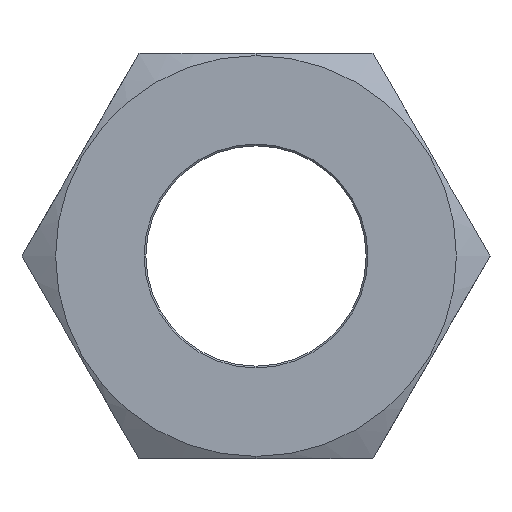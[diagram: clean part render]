
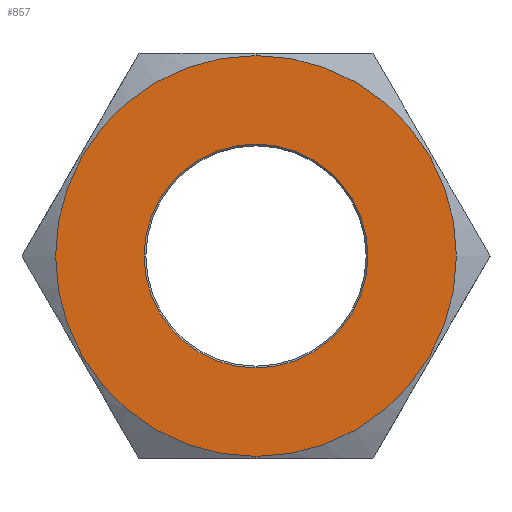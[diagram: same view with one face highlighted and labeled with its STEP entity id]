
A CAD part, left-side view. The second image highlights one B-rep face of the part: STEP entity #857.
In plain terms, the highlighted planar face has unit normal (-1, 0, 0) as drawn and (0, 0, 1) by its records, which use the part's own axes.
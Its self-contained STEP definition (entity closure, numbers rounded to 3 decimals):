
#141=CARTESIAN_POINT('',(22.75,0.0,13.75));
#142=VERTEX_POINT('',#141);
#151=CARTESIAN_POINT('',(-22.75,0.,13.75));
#152=VERTEX_POINT('',#151);
#153=CARTESIAN_POINT('',(0.,0.0,13.75));
#154=DIRECTION('',(0.0,0.0,1.0));
#155=DIRECTION('',(1.0,0.0,0.0));
#156=AXIS2_PLACEMENT_3D('',#153,#154,#155);
#157=CIRCLE('',#156,22.75);
#158=EDGE_CURVE('',#152,#142,#157,.T.);
#471=CARTESIAN_POINT('',(0.,12.7,13.75));
#472=VERTEX_POINT('',#471);
#480=CARTESIAN_POINT('',(0.,-12.7,13.75));
#481=VERTEX_POINT('',#480);
#488=CARTESIAN_POINT('',(0.,0.,13.75));
#489=DIRECTION('',(0.0,0.0,-1.0));
#490=DIRECTION('',(0.0,1.0,0.0));
#491=AXIS2_PLACEMENT_3D('',#488,#489,#490);
#492=CIRCLE('',#491,12.7);
#493=EDGE_CURVE('',#472,#481,#492,.T.);
#504=CARTESIAN_POINT('',(0.,0.,13.75));
#505=DIRECTION('',(0.0,0.0,-1.0));
#506=DIRECTION('',(0.0,1.0,0.0));
#507=AXIS2_PLACEMENT_3D('',#504,#505,#506);
#508=CIRCLE('',#507,12.7);
#509=EDGE_CURVE('',#481,#472,#508,.T.);
#728=CARTESIAN_POINT('',(0.,0.0,13.75));
#729=DIRECTION('',(0.0,0.0,1.0));
#730=DIRECTION('',(1.0,0.0,0.0));
#731=AXIS2_PLACEMENT_3D('',#728,#729,#730);
#732=CIRCLE('',#731,22.75);
#733=EDGE_CURVE('',#142,#152,#732,.T.);
#844=CARTESIAN_POINT('',(0.0,0.,13.75));
#845=DIRECTION('',(0.0,0.0,1.0));
#846=DIRECTION('',(1.0,0.0,0.0));
#847=AXIS2_PLACEMENT_3D('',#844,#845,#846);
#848=PLANE('',#847);
#849=ORIENTED_EDGE('',*,*,#733,.T.);
#850=ORIENTED_EDGE('',*,*,#158,.T.);
#851=EDGE_LOOP('',(#849,#850));
#852=FACE_OUTER_BOUND('',#851,.T.);
#853=ORIENTED_EDGE('',*,*,#493,.T.);
#854=ORIENTED_EDGE('',*,*,#509,.T.);
#855=EDGE_LOOP('',(#853,#854));
#856=FACE_BOUND('',#855,.T.);
#857=ADVANCED_FACE('',(#852,#856),#848,.T.);
